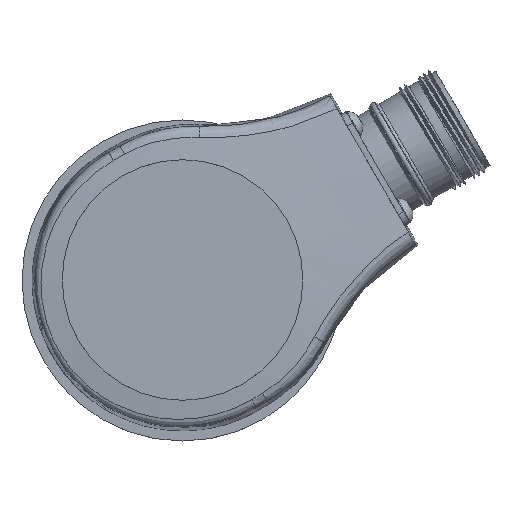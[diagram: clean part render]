
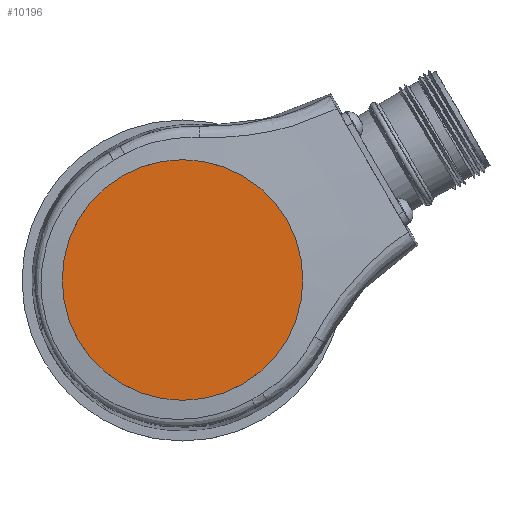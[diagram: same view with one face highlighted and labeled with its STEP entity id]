
A CAD part, top view. The second image highlights one B-rep face of the part: STEP entity #10196.
In plain terms, the highlighted planar face has unit normal (0, 0, 1).
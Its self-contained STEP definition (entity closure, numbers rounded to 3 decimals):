
#1816=ORIENTED_EDGE('',*,*,#3112,.T.);
#3112=EDGE_CURVE('',#3915,#3915,#4504,.T.);
#3915=VERTEX_POINT('',#14429);
#4504=CIRCLE('',#10905,23.794);
#5096=EDGE_LOOP('',(#1816));
#5898=FACE_BOUND('',#5096,.T.);
#6387=PLANE('',#10913);
#10196=ADVANCED_FACE('',(#5898),#6387,.T.);
#10905=AXIS2_PLACEMENT_3D('',#14428,#12264,#12265);
#10913=AXIS2_PLACEMENT_3D('',#16092,#12280,#12281);
#12264=DIRECTION('',(0.,0.,1.));
#12265=DIRECTION('',(-0.5,0.866,0.));
#12280=DIRECTION('',(0.,0.,1.));
#12281=DIRECTION('',(-0.5,0.866,0.));
#14428=CARTESIAN_POINT('',(0.,0.,42.));
#14429=CARTESIAN_POINT('',(-11.897,20.606,42.));
#16092=CARTESIAN_POINT('',(0.,0.,42.));
